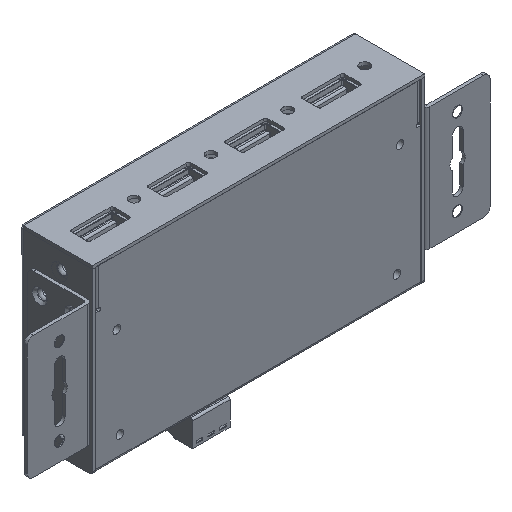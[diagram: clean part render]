
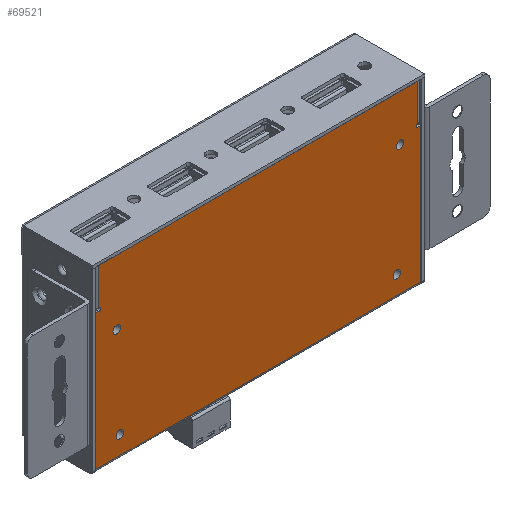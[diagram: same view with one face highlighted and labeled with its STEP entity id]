
A CAD part, isometric view. The second image highlights one B-rep face of the part: STEP entity #69521.
In plain terms, the highlighted planar face has unit normal (0, -1, 0).
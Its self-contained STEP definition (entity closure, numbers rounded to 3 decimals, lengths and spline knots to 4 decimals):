
#555=FACE_BOUND('',#10947,.T.);
#556=FACE_BOUND('',#10948,.T.);
#557=FACE_BOUND('',#10949,.T.);
#558=FACE_BOUND('',#10950,.T.);
#1834=PLANE('',#76669);
#7086=FACE_OUTER_BOUND('',#10946,.T.);
#10946=EDGE_LOOP('',(#60754,#60755,#60756,#60757,#60758,#60759,#60760,#60761,
#60762,#60763));
#10947=EDGE_LOOP('',(#60764));
#10948=EDGE_LOOP('',(#60765));
#10949=EDGE_LOOP('',(#60766));
#10950=EDGE_LOOP('',(#60767));
#16502=LINE('',#117710,#22661);
#16505=LINE('',#117721,#22664);
#16514=LINE('',#117740,#22673);
#16526=LINE('',#117777,#22685);
#16540=LINE('',#117820,#22699);
#16560=LINE('',#117880,#22719);
#16561=LINE('',#117885,#22720);
#16575=LINE('',#117936,#22734);
#22661=VECTOR('',#94605,39.3701);
#22664=VECTOR('',#94614,39.3701);
#22673=VECTOR('',#94633,39.3701);
#22685=VECTOR('',#94671,39.3701);
#22699=VECTOR('',#94711,39.3701);
#22719=VECTOR('',#94779,39.3701);
#22720=VECTOR('',#94784,39.3701);
#22734=VECTOR('',#94848,0.3937);
#27905=CIRCLE('',#76608,0.0197);
#27911=CIRCLE('',#76617,0.0197);
#27922=CIRCLE('',#76650,0.0492);
#27925=CIRCLE('',#76655,0.0492);
#27928=CIRCLE('',#76660,0.0492);
#27931=CIRCLE('',#76665,0.0492);
#33784=VERTEX_POINT('',#117707);
#33785=VERTEX_POINT('',#117709);
#33789=VERTEX_POINT('',#117718);
#33790=VERTEX_POINT('',#117720);
#33807=VERTEX_POINT('',#117776);
#33809=VERTEX_POINT('',#117782);
#33822=VERTEX_POINT('',#117813);
#33823=VERTEX_POINT('',#117815);
#33839=VERTEX_POINT('',#117877);
#33840=VERTEX_POINT('',#117882);
#33842=VERTEX_POINT('',#117896);
#33845=VERTEX_POINT('',#117906);
#33848=VERTEX_POINT('',#117916);
#33851=VERTEX_POINT('',#117926);
#43182=EDGE_CURVE('',#33784,#33785,#16502,.T.);
#43187=EDGE_CURVE('',#33790,#33789,#16505,.T.);
#43198=EDGE_CURVE('',#33789,#33785,#16514,.T.);
#43216=EDGE_CURVE('',#33807,#33790,#16526,.T.);
#43219=EDGE_CURVE('',#33807,#33809,#27905,.T.);
#43235=EDGE_CURVE('',#33822,#33823,#27911,.T.);
#43238=EDGE_CURVE('',#33823,#33784,#16540,.T.);
#43267=EDGE_CURVE('',#33839,#33809,#16560,.T.);
#43269=EDGE_CURVE('',#33822,#33840,#16561,.T.);
#43275=EDGE_CURVE('',#33842,#33842,#27922,.T.);
#43280=EDGE_CURVE('',#33845,#33845,#27925,.T.);
#43285=EDGE_CURVE('',#33848,#33848,#27928,.T.);
#43290=EDGE_CURVE('',#33851,#33851,#27931,.T.);
#43295=EDGE_CURVE('',#33839,#33840,#16575,.T.);
#60754=ORIENTED_EDGE('',*,*,#43182,.F.);
#60755=ORIENTED_EDGE('',*,*,#43238,.F.);
#60756=ORIENTED_EDGE('',*,*,#43235,.F.);
#60757=ORIENTED_EDGE('',*,*,#43269,.T.);
#60758=ORIENTED_EDGE('',*,*,#43295,.F.);
#60759=ORIENTED_EDGE('',*,*,#43267,.T.);
#60760=ORIENTED_EDGE('',*,*,#43219,.F.);
#60761=ORIENTED_EDGE('',*,*,#43216,.T.);
#60762=ORIENTED_EDGE('',*,*,#43187,.T.);
#60763=ORIENTED_EDGE('',*,*,#43198,.T.);
#60764=ORIENTED_EDGE('',*,*,#43285,.F.);
#60765=ORIENTED_EDGE('',*,*,#43275,.F.);
#60766=ORIENTED_EDGE('',*,*,#43280,.F.);
#60767=ORIENTED_EDGE('',*,*,#43290,.F.);
#69521=ADVANCED_FACE('',(#7086,#555,#556,#557,#558),#1834,.F.);
#76608=AXIS2_PLACEMENT_3D('',#117783,#94677,#94678);
#76617=AXIS2_PLACEMENT_3D('',#117816,#94705,#94706);
#76650=AXIS2_PLACEMENT_3D('',#117897,#94800,#94801);
#76655=AXIS2_PLACEMENT_3D('',#117907,#94812,#94813);
#76660=AXIS2_PLACEMENT_3D('',#117917,#94824,#94825);
#76665=AXIS2_PLACEMENT_3D('',#117927,#94836,#94837);
#76669=AXIS2_PLACEMENT_3D('',#117935,#94846,#94847);
#94605=DIRECTION('',(0.,0.,-1.));
#94614=DIRECTION('',(0.,0.,-1.));
#94633=DIRECTION('',(1.,0.,0.));
#94671=DIRECTION('',(-1.,0.,0.));
#94677=DIRECTION('center_axis',(0.,-1.,0.));
#94678=DIRECTION('ref_axis',(0.,0.,
1.));
#94705=DIRECTION('center_axis',(0.,-1.,0.));
#94706=DIRECTION('ref_axis',(0.,0.,
1.));
#94711=DIRECTION('',(1.,0.,0.));
#94779=DIRECTION('',(0.,0.,-1.));
#94784=DIRECTION('',(0.,0.,1.));
#94800=DIRECTION('center_axis',(0.,-1.,0.));
#94801=DIRECTION('ref_axis',(0.,0.,
1.));
#94812=DIRECTION('center_axis',(0.,-1.,0.));
#94813=DIRECTION('ref_axis',(0.,0.,
1.));
#94824=DIRECTION('center_axis',(0.,-1.,0.));
#94825=DIRECTION('ref_axis',(0.,0.,
1.));
#94836=DIRECTION('center_axis',(0.,-1.,0.));
#94837=DIRECTION('ref_axis',(0.,0.,
1.));
#94846=DIRECTION('center_axis',(0.,1.,0.));
#94847=DIRECTION('ref_axis',(0.,0.,
1.));
#94848=DIRECTION('',(1.,0.,0.));
#117707=CARTESIAN_POINT('',(2.1897,-0.0012,0.0658));
#117709=CARTESIAN_POINT('',(2.1897,-0.0012,-1.6664));
#117710=CARTESIAN_POINT('',(2.1897,-0.0012,-1.7011));
#117718=CARTESIAN_POINT('',(-1.9678,-0.0012,-1.6664));
#117720=CARTESIAN_POINT('',(-1.9678,-0.0012,0.0658));
#117721=CARTESIAN_POINT('',(-1.9678,-0.0012,-1.7113));
#117740=CARTESIAN_POINT('',(-2.051,-0.0012,-1.6664));
#117776=CARTESIAN_POINT('',(-1.9284,-0.0012,0.0658));
#117777=CARTESIAN_POINT('',(-2.051,-0.0012,0.0658));
#117782=CARTESIAN_POINT('',(-1.9284,-0.0012,0.1052));
#117783=CARTESIAN_POINT('Origin',(-1.9284,-0.0012,
0.0855));
#117813=CARTESIAN_POINT('',(2.1503,-0.0012,0.1052));
#117815=CARTESIAN_POINT('',(2.1503,-0.0012,0.0658));
#117816=CARTESIAN_POINT('Origin',(2.1503,-0.0012,
0.0855));
#117820=CARTESIAN_POINT('',(2.1955,-0.0012,0.0658));
#117877=CARTESIAN_POINT('',(-1.9284,-0.0012,0.5776));
#117880=CARTESIAN_POINT('',(-1.9284,-0.0012,-1.7113));
#117882=CARTESIAN_POINT('',(2.1503,-0.0012,0.5776));
#117885=CARTESIAN_POINT('',(2.1503,-0.0012,-1.7113));
#117896=CARTESIAN_POINT('',(1.922,-0.0012,-0.0621));
#117897=CARTESIAN_POINT('Origin',(1.922,-0.0012,
-0.0129));
#117906=CARTESIAN_POINT('',(-1.6607,-0.0012,-1.4794));
#117907=CARTESIAN_POINT('Origin',(-1.6607,-0.0012,
-1.4302));
#117916=CARTESIAN_POINT('',(-1.7001,-0.0012,-0.2983));
#117917=CARTESIAN_POINT('Origin',(-1.7001,-0.0012,
-0.2491));
#117926=CARTESIAN_POINT('',(1.8826,-0.0012,-1.4794));
#117927=CARTESIAN_POINT('Origin',(1.8826,-0.0012,
-1.4302));
#117935=CARTESIAN_POINT('Origin',(1.7413,-0.0012,
-1.5735));
#117936=CARTESIAN_POINT('',(0.0503,-0.0012,0.5776));
